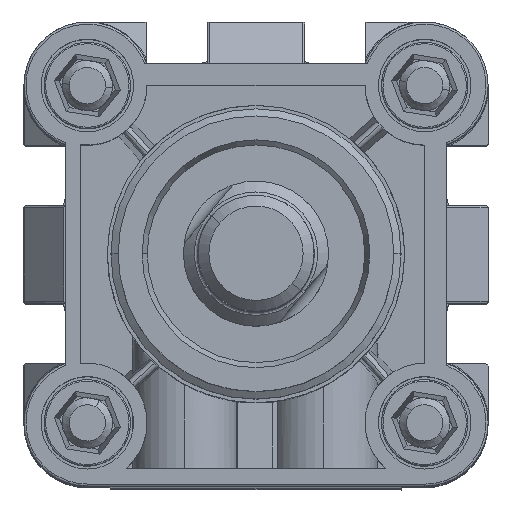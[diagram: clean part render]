
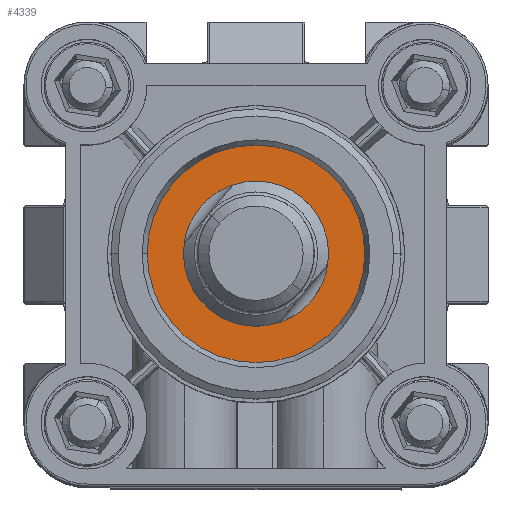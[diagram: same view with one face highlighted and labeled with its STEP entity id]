
A CAD part, top view. The second image highlights one B-rep face of the part: STEP entity #4339.
In plain terms, the highlighted planar face has unit normal (0, 0, 1) as drawn and (0, 0, -1) by its records, which use the part's own axes.
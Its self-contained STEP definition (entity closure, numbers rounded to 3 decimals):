
#863 = ORIENTED_EDGE ( 'NONE', *, *, #13672, .F. ) ;
#1218 = DIRECTION ( 'NONE',  ( 1., 0., 0. ) ) ;
#1380 = CARTESIAN_POINT ( 'NONE',  ( 41.25, 26.25, -25.4 ) ) ;
#1474 = DIRECTION ( 'NONE',  ( 0., 0., -1. ) ) ;
#2013 = EDGE_LOOP ( 'NONE', ( #863, #19953 ) ) ;
#2106 = AXIS2_PLACEMENT_3D ( 'NONE', #11140, #1474, #12782 ) ;
#3943 = FACE_OUTER_BOUND ( 'NONE', #15215, .T. ) ;
#4052 = CARTESIAN_POINT ( 'NONE',  ( 41.43, 11.07, -25.4 ) ) ;
#4339 = ADVANCED_FACE ( 'NONE', ( #4451, #3943 ), #18595, .T. ) ;
#4368 = VERTEX_POINT ( 'NONE', #12218 ) ;
#4451 = FACE_BOUND ( 'NONE', #2013, .T. ) ;
#4974 = ORIENTED_EDGE ( 'NONE', *, *, #10857, .T. ) ;
#5526 = EDGE_CURVE ( 'NONE', #5855, #19789, #12963, .T. ) ;
#5855 = VERTEX_POINT ( 'NONE', #1380 ) ;
#6164 = DIRECTION ( 'NONE',  ( 0., 0., -1. ) ) ;
#6414 = CARTESIAN_POINT ( 'NONE',  ( 26.25, 26.25, -25.4 ) ) ;
#8045 = DIRECTION ( 'NONE',  ( 0., 1., 0. ) ) ;
#8894 = DIRECTION ( 'NONE',  ( 0., 0., -1. ) ) ;
#9012 = CIRCLE ( 'NONE', #19554, 15. ) ;
#10857 = EDGE_CURVE ( 'NONE', #19789, #5855, #9012, .T. ) ;
#10882 = DIRECTION ( 'NONE',  ( 0., 0., -1. ) ) ;
#11140 = CARTESIAN_POINT ( 'NONE',  ( 26.25, 26.25, -25.4 ) ) ;
#11668 = CIRCLE ( 'NONE', #20716, 10. ) ;
#12218 = CARTESIAN_POINT ( 'NONE',  ( 26.25, 36.25, -25.4 ) ) ;
#12782 = DIRECTION ( 'NONE',  ( 0., 1., 0. ) ) ;
#12963 = CIRCLE ( 'NONE', #19047, 15. ) ;
#13672 = EDGE_CURVE ( 'NONE', #4368, #16966, #19591, .T. ) ;
#15215 = EDGE_LOOP ( 'NONE', ( #20526, #4974 ) ) ;
#15384 = EDGE_CURVE ( 'NONE', #16966, #4368, #11668, .T. ) ;
#15857 = CARTESIAN_POINT ( 'NONE',  ( 26.25, 26.25, -25.4 ) ) ;
#16843 = CARTESIAN_POINT ( 'NONE',  ( 26.25, 16.25, -25.4 ) ) ;
#16966 = VERTEX_POINT ( 'NONE', #16843 ) ;
#17404 = AXIS2_PLACEMENT_3D ( 'NONE', #4052, #8894, #20233 ) ;
#17479 = DIRECTION ( 'NONE',  ( 1., 0., 0. ) ) ;
#17733 = DIRECTION ( 'NONE',  ( 0., 0., -1. ) ) ;
#18595 = PLANE ( 'NONE',  #17404 ) ;
#19047 = AXIS2_PLACEMENT_3D ( 'NONE', #20590, #10882, #1218 ) ;
#19554 = AXIS2_PLACEMENT_3D ( 'NONE', #15857, #6164, #17479 ) ;
#19591 = CIRCLE ( 'NONE', #2106, 10. ) ;
#19719 = CARTESIAN_POINT ( 'NONE',  ( 11.25, 26.25, -25.4 ) ) ;
#19789 = VERTEX_POINT ( 'NONE', #19719 ) ;
#19953 = ORIENTED_EDGE ( 'NONE', *, *, #15384, .F. ) ;
#20233 = DIRECTION ( 'NONE',  ( -1., 0., 0. ) ) ;
#20526 = ORIENTED_EDGE ( 'NONE', *, *, #5526, .T. ) ;
#20590 = CARTESIAN_POINT ( 'NONE',  ( 26.25, 26.25, -25.4 ) ) ;
#20716 = AXIS2_PLACEMENT_3D ( 'NONE', #6414, #17733, #8045 ) ;
